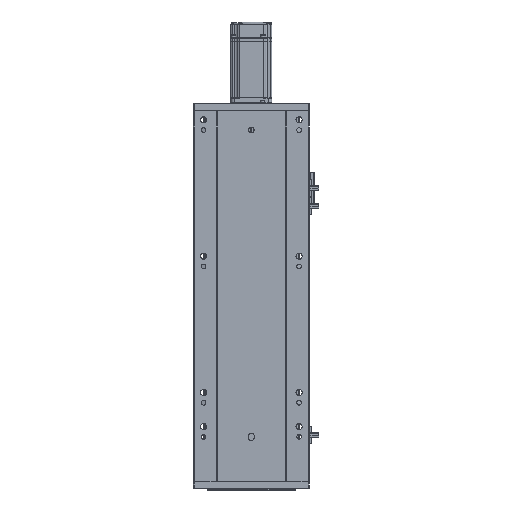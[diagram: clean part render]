
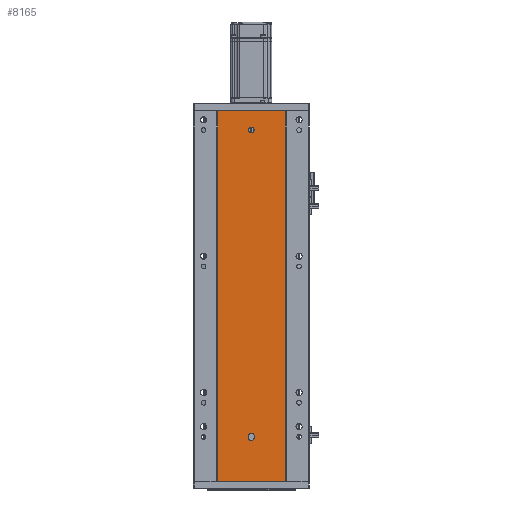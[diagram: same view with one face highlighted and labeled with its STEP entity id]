
A CAD part, front view. The second image highlights one B-rep face of the part: STEP entity #8165.
In plain terms, the highlighted planar face has unit normal (0, -1, 0).
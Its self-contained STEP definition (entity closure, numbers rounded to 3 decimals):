
#141 = AXIS2_PLACEMENT_3D ( 'NONE', #31399, #37076, #31609 ) ;
#239 = CARTESIAN_POINT ( 'NONE',  ( 140.47, 79.476, 64.5 ) ) ;
#312 = DIRECTION ( 'NONE',  ( 0., -1., 0. ) ) ;
#353 = FACE_OUTER_BOUND ( 'NONE', #39103, .T. ) ;
#450 = ORIENTED_EDGE ( 'NONE', *, *, #36638, .F. ) ;
#594 = CARTESIAN_POINT ( 'NONE',  ( 86.97, 79.476, 544. ) ) ;
#1419 = ORIENTED_EDGE ( 'NONE', *, *, #5309, .F. ) ;
#2199 = DIRECTION ( 'NONE',  ( 0., 0., 1. ) ) ;
#2469 = DIRECTION ( 'NONE',  ( 0., -1., 0. ) ) ;
#3995 = CARTESIAN_POINT ( 'NONE',  ( 136.47, 79.476, 64.5 ) ) ;
#5280 = CARTESIAN_POINT ( 'NONE',  ( 136.47, 79.476, 67.5 ) ) ;
#5309 = EDGE_CURVE ( 'NONE', #44991, #63953, #37654, .T. ) ;
#5724 = ORIENTED_EDGE ( 'NONE', *, *, #47094, .F. ) ;
#6370 = CIRCLE ( 'NONE', #45216, 4. ) ;
#7162 = CARTESIAN_POINT ( 'NONE',  ( 0., 79.476, 0. ) ) ;
#8165 = ADVANCED_FACE ( 'NONE', ( #37149, #57505, #353 ), #60925, .F. ) ;
#8324 = EDGE_CURVE ( 'NONE', #19126, #44991, #60687, .T. ) ;
#9000 = DIRECTION ( 'NONE',  ( 0., 0., -1. ) ) ;
#9870 = CARTESIAN_POINT ( 'NONE',  ( 136.47, 79.476, 520. ) ) ;
#11732 = EDGE_LOOP ( 'NONE', ( #450, #25360, #53076, #46604, #49122 ) ) ;
#12550 = CARTESIAN_POINT ( 'NONE',  ( 132.47, 79.476, 67.5 ) ) ;
#13096 = DIRECTION ( 'NONE',  ( 0., -1., 0. ) ) ;
#14212 = VECTOR ( 'NONE', #2199, 1000. ) ;
#14824 = EDGE_CURVE ( 'NONE', #19126, #16159, #63294, .T. ) ;
#15356 = CARTESIAN_POINT ( 'NONE',  ( 86.97, 79.476, 544. ) ) ;
#15576 = CARTESIAN_POINT ( 'NONE',  ( 86.97, 79.476, 181.333 ) ) ;
#16086 = VERTEX_POINT ( 'NONE', #239 ) ;
#16159 = VERTEX_POINT ( 'NONE', #61337 ) ;
#17186 = LINE ( 'NONE', #7162, #61072 ) ;
#18141 = LINE ( 'NONE', #62442, #14212 ) ;
#19126 = VERTEX_POINT ( 'NONE', #594 ) ;
#19248 = ORIENTED_EDGE ( 'NONE', *, *, #54268, .T. ) ;
#19275 = ORIENTED_EDGE ( 'NONE', *, *, #8324, .F. ) ;
#20220 = CARTESIAN_POINT ( 'NONE',  ( 86.97, 79.476, 0. ) ) ;
#22592 = DIRECTION ( 'NONE',  ( 1., 0., 0. ) ) ;
#22650 = VERTEX_POINT ( 'NONE', #38335 ) ;
#22724 = CARTESIAN_POINT ( 'NONE',  ( 185.97, 79.476, 544. ) ) ;
#24394 = AXIS2_PLACEMENT_3D ( 'NONE', #46933, #2469, #46708 ) ;
#24426 = CARTESIAN_POINT ( 'NONE',  ( 185.97, 79.476, 0. ) ) ;
#25360 = ORIENTED_EDGE ( 'NONE', *, *, #41252, .F. ) ;
#29096 = EDGE_CURVE ( 'NONE', #16086, #48466, #18141, .T. ) ;
#30797 = AXIS2_PLACEMENT_3D ( 'NONE', #50826, #44925, #55442 ) ;
#31212 = CARTESIAN_POINT ( 'NONE',  ( 136.47, 79.476, 512. ) ) ;
#31399 = CARTESIAN_POINT ( 'NONE',  ( 136.47, 79.476, 516. ) ) ;
#31609 = DIRECTION ( 'NONE',  ( 0., 0., -1. ) ) ;
#32478 = AXIS2_PLACEMENT_3D ( 'NONE', #33062, #13096, #38105 ) ;
#32714 = CARTESIAN_POINT ( 'NONE',  ( 185.97, 79.476, 0. ) ) ;
#33062 = CARTESIAN_POINT ( 'NONE',  ( 136.47, 79.476, 64.5 ) ) ;
#35535 = DIRECTION ( 'NONE',  ( 0., 0., -1. ) ) ;
#36569 = CARTESIAN_POINT ( 'NONE',  ( 0., 79.476, 544. ) ) ;
#36638 = EDGE_CURVE ( 'NONE', #60042, #59737, #62079, .T. ) ;
#36970 = DIRECTION ( 'NONE',  ( 1., 0., 0. ) ) ;
#37076 = DIRECTION ( 'NONE',  ( 0., -1., 0. ) ) ;
#37149 = FACE_BOUND ( 'NONE', #11732, .T. ) ;
#37654 = B_SPLINE_CURVE_WITH_KNOTS ( 'NONE', 3,
 ( #55073, #49398, #60348, #24426 ),
 .UNSPECIFIED., .F., .F.,
 ( 4, 4 ),
 ( 0., 1. ),
 .UNSPECIFIED. ) ;
#38105 = DIRECTION ( 'NONE',  ( 0., 0., -1. ) ) ;
#38335 = CARTESIAN_POINT ( 'NONE',  ( 132.47, 79.476, 67.5 ) ) ;
#38715 = VECTOR ( 'NONE', #22592, 1000. ) ;
#38850 = CIRCLE ( 'NONE', #141, 4. ) ;
#39021 = ORIENTED_EDGE ( 'NONE', *, *, #45544, .F. ) ;
#39031 = EDGE_LOOP ( 'NONE', ( #5724, #39021 ) ) ;
#39103 = EDGE_LOOP ( 'NONE', ( #19248, #1419, #19275, #41572 ) ) ;
#39332 = LINE ( 'NONE', #12550, #55830 ) ;
#39924 = CARTESIAN_POINT ( 'NONE',  ( 86.97, 79.476, 362.667 ) ) ;
#40348 = AXIS2_PLACEMENT_3D ( 'NONE', #3995, #53328, #9000 ) ;
#41252 = EDGE_CURVE ( 'NONE', #22650, #60042, #39332, .T. ) ;
#41492 = EDGE_CURVE ( 'NONE', #48466, #22650, #6370, .T. ) ;
#41572 = ORIENTED_EDGE ( 'NONE', *, *, #14824, .T. ) ;
#43563 = CIRCLE ( 'NONE', #24394, 4. ) ;
#44925 = DIRECTION ( 'NONE',  ( 0., 1., 0. ) ) ;
#44991 = VERTEX_POINT ( 'NONE', #22724 ) ;
#45047 = CARTESIAN_POINT ( 'NONE',  ( 136.47, 79.476, 60.5 ) ) ;
#45216 = AXIS2_PLACEMENT_3D ( 'NONE', #5280, #312, #35535 ) ;
#45544 = EDGE_CURVE ( 'NONE', #62839, #63704, #43563, .T. ) ;
#46604 = ORIENTED_EDGE ( 'NONE', *, *, #29096, .F. ) ;
#46708 = DIRECTION ( 'NONE',  ( 0., 0., -1. ) ) ;
#46933 = CARTESIAN_POINT ( 'NONE',  ( 136.47, 79.476, 516. ) ) ;
#47094 = EDGE_CURVE ( 'NONE', #63704, #62839, #38850, .T. ) ;
#48466 = VERTEX_POINT ( 'NONE', #61142 ) ;
#49122 = ORIENTED_EDGE ( 'NONE', *, *, #62756, .F. ) ;
#49398 = CARTESIAN_POINT ( 'NONE',  ( 185.97, 79.476, 362.667 ) ) ;
#50826 = CARTESIAN_POINT ( 'NONE',  ( 0., 79.476, 544. ) ) ;
#52686 = DIRECTION ( 'NONE',  ( 0., 0., -1. ) ) ;
#53076 = ORIENTED_EDGE ( 'NONE', *, *, #41492, .F. ) ;
#53328 = DIRECTION ( 'NONE',  ( 0., -1., 0. ) ) ;
#53650 = CIRCLE ( 'NONE', #40348, 4. ) ;
#54268 = EDGE_CURVE ( 'NONE', #16159, #63953, #17186, .T. ) ;
#55073 = CARTESIAN_POINT ( 'NONE',  ( 185.97, 79.476, 544. ) ) ;
#55442 = DIRECTION ( 'NONE',  ( 0., 0., 1. ) ) ;
#55830 = VECTOR ( 'NONE', #52686, 1000. ) ;
#57056 = CARTESIAN_POINT ( 'NONE',  ( 132.47, 79.476, 64.5 ) ) ;
#57505 = FACE_BOUND ( 'NONE', #39031, .T. ) ;
#59737 = VERTEX_POINT ( 'NONE', #45047 ) ;
#60042 = VERTEX_POINT ( 'NONE', #57056 ) ;
#60348 = CARTESIAN_POINT ( 'NONE',  ( 185.97, 79.476, 181.333 ) ) ;
#60687 = LINE ( 'NONE', #36569, #38715 ) ;
#60925 = PLANE ( 'NONE',  #30797 ) ;
#61072 = VECTOR ( 'NONE', #36970, 1000. ) ;
#61142 = CARTESIAN_POINT ( 'NONE',  ( 140.47, 79.476, 67.5 ) ) ;
#61337 = CARTESIAN_POINT ( 'NONE',  ( 86.97, 79.476, 0. ) ) ;
#62079 = CIRCLE ( 'NONE', #32478, 4. ) ;
#62442 = CARTESIAN_POINT ( 'NONE',  ( 140.47, 79.476, 67.5 ) ) ;
#62756 = EDGE_CURVE ( 'NONE', #59737, #16086, #53650, .T. ) ;
#62839 = VERTEX_POINT ( 'NONE', #9870 ) ;
#63294 = B_SPLINE_CURVE_WITH_KNOTS ( 'NONE', 3,
 ( #15356, #39924, #15576, #20220 ),
 .UNSPECIFIED., .F., .F.,
 ( 4, 4 ),
 ( 0., 1. ),
 .UNSPECIFIED. ) ;
#63704 = VERTEX_POINT ( 'NONE', #31212 ) ;
#63953 = VERTEX_POINT ( 'NONE', #32714 ) ;
